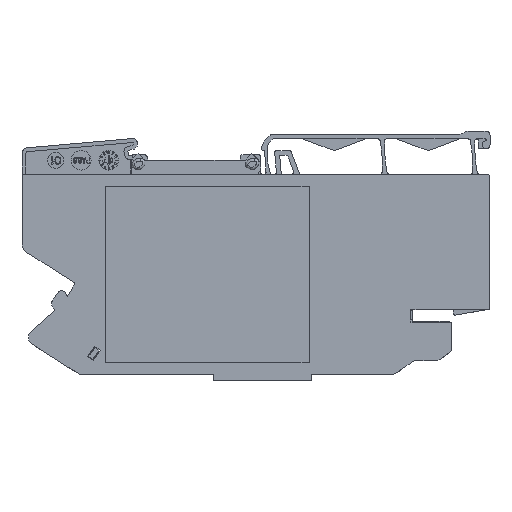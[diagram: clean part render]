
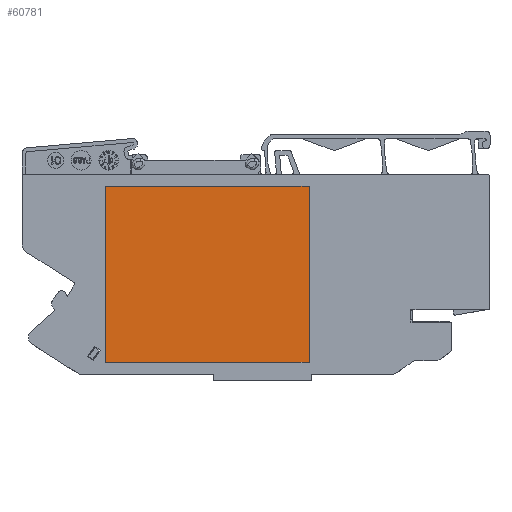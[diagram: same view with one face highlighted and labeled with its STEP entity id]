
A CAD part, front view. The second image highlights one B-rep face of the part: STEP entity #60781.
In plain terms, the highlighted planar face has unit normal (0, -1, 0).
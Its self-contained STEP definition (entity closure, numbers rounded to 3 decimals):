
#3914=LINE('',#94143,#11080);
#3916=LINE('',#94147,#11082);
#3918=LINE('',#94151,#11084);
#3920=LINE('',#94154,#11086);
#11080=VECTOR('',#72985,45.);
#11082=VECTOR('',#72989,52.);
#11084=VECTOR('',#72993,45.);
#11086=VECTOR('',#72997,52.);
#17010=FACE_OUTER_BOUND('',#20285,.T.);
#20285=EDGE_LOOP('',(#44007,#44008,#44009,#44010));
#25585=VERTEX_POINT('',#94140);
#25586=VERTEX_POINT('',#94142);
#25587=VERTEX_POINT('',#94146);
#25588=VERTEX_POINT('',#94150);
#32333=EDGE_CURVE('',#25586,#25585,#3914,.T.);
#32335=EDGE_CURVE('',#25587,#25586,#3916,.T.);
#32337=EDGE_CURVE('',#25588,#25587,#3918,.T.);
#32339=EDGE_CURVE('',#25585,#25588,#3920,.T.);
#44007=ORIENTED_EDGE('',*,*,#32333,.T.);
#44008=ORIENTED_EDGE('',*,*,#32339,.T.);
#44009=ORIENTED_EDGE('',*,*,#32337,.T.);
#44010=ORIENTED_EDGE('',*,*,#32335,.T.);
#55009=PLANE('',#64278);
#60781=ADVANCED_FACE('',(#17010),#55009,.T.);
#64278=AXIS2_PLACEMENT_3D('',#94155,#72998,#72999);
#72985=DIRECTION('',(0.,0.,1.));
#72989=DIRECTION('',(1.,0.,0.));
#72993=DIRECTION('',(0.,0.,-1.));
#72997=DIRECTION('',(-1.,0.,0.));
#72998=DIRECTION('center_axis',(0.,-1.,0.));
#72999=DIRECTION('ref_axis',(0.,0.,-1.));
#94140=CARTESIAN_POINT('',(-1.4,-11.1,-8.));
#94142=CARTESIAN_POINT('',(-1.4,-11.1,-53.));
#94143=CARTESIAN_POINT('',(-1.4,-11.1,-53.));
#94146=CARTESIAN_POINT('',(-53.4,-11.1,-53.));
#94147=CARTESIAN_POINT('',(-53.4,-11.1,-53.));
#94150=CARTESIAN_POINT('',(-53.4,-11.1,-8.));
#94151=CARTESIAN_POINT('',(-53.4,-11.1,-8.));
#94154=CARTESIAN_POINT('',(-1.4,-11.1,-8.));
#94155=CARTESIAN_POINT('Origin',(0.,-11.1,0.));
